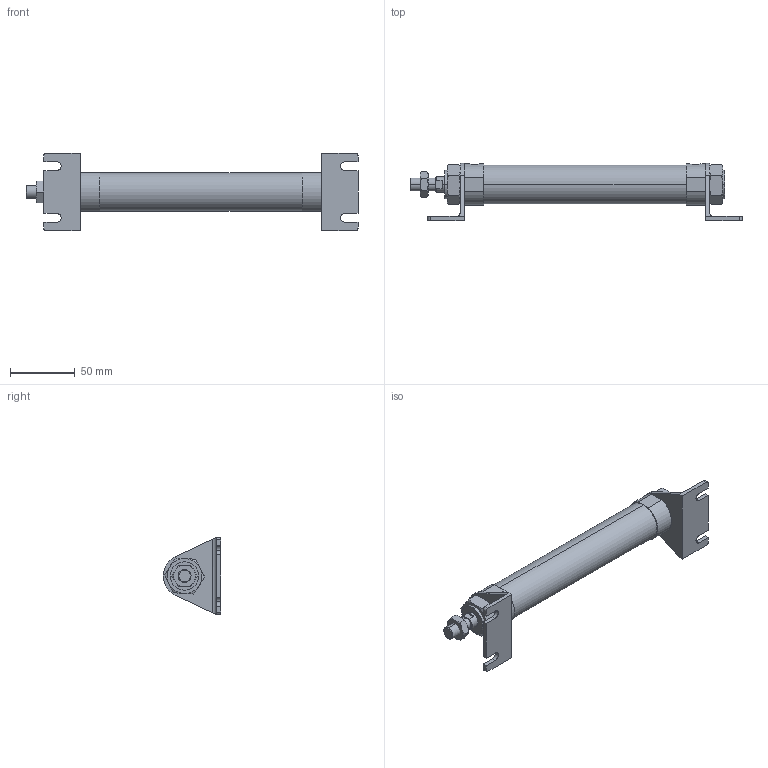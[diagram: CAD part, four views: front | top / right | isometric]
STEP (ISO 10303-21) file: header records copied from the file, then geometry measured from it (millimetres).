
FILE_DESCRIPTION (( 'STEP AP203' ), '1' );
FILE_NAME ('J#2-25-125-L.STEP', '2016-03-10T00:55:16', ( '' ), ( '' ), 'SwSTEP 2.0', 'SolidWorks 2014', '' );
FILE_SCHEMA (( 'CONFIG_CONTROL_DESIGN' ));
Length unit declared in the file: millimetre
Products named in the file (5): J#2-25-125-L; J#2-25-125; J#2-25-L
Assembly tree (6 placements, depth 2):
  J#2-25-125-L
    J#2-25-125
    (unnamed)
    (unnamed)  x2
    J#2-25-L  x2
Bounding box: 257.2 x 44.5 x 60 mm (x, y, z)
Volume: 170861.7 mm3; surface area: 41861.1 mm2
Topology: 6 solids, 6 shells, 171 faces, 402 edges, 246 vertices
Faces by surface type: plane 75, cylinder 50, torus 36, cone 10
Entity records: 4351 total; most frequent: CARTESIAN_POINT 1030, DIRECTION 588, ORIENTED_EDGE 560, EDGE_CURVE 280, AXIS2_PLACEMENT_3D 234, VERTEX_POINT 172, EDGE_LOOP 136, ADVANCED_FACE 123
